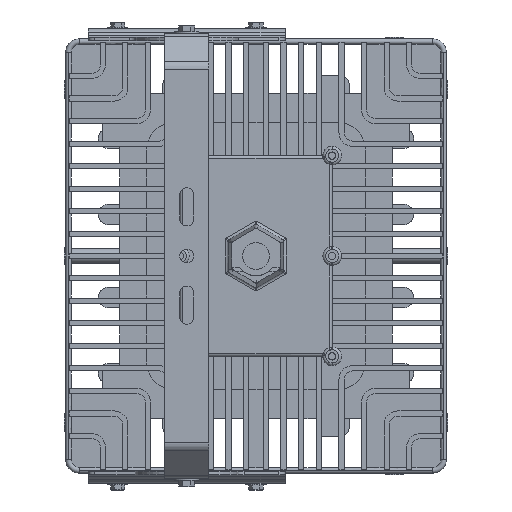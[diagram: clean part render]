
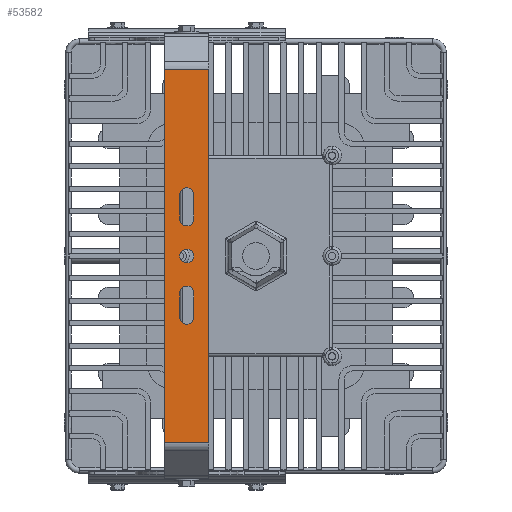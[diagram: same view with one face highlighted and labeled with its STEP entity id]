
A CAD part, left-side view. The second image highlights one B-rep face of the part: STEP entity #53582.
In plain terms, the highlighted planar face has unit normal (-1, 0, 0) as drawn and (0, 1, 0) by its records, which use the part's own axes.
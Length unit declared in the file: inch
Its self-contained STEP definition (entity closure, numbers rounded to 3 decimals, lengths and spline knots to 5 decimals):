
#192 = VERTEX_POINT ( 'NONE', #221 ) ;
#221 = CARTESIAN_POINT ( 'NONE',  ( -6.73579, 5.135, 0. ) ) ;
#849 = ORIENTED_EDGE ( 'NONE', *, *, #71276, .F. ) ;
#1023 = CARTESIAN_POINT ( 'NONE',  ( 1.335, 5.135, -0.55 ) ) ;
#1081 = EDGE_CURVE ( 'NONE', #78910, #71484, #62967, .T. ) ;
#1778 = AXIS2_PLACEMENT_3D ( 'NONE', #27148, #33582, #68188 ) ;
#2258 = VERTEX_POINT ( 'NONE', #70051 ) ;
#2411 = CIRCLE ( 'NONE', #62596, 0.25 ) ;
#3666 = VECTOR ( 'NONE', #30069, 39.37008 ) ;
#7105 = DIRECTION ( 'NONE',  ( 1., 0., 0. ) ) ;
#7224 = AXIS2_PLACEMENT_3D ( 'NONE', #14072, #66290, #59842 ) ;
#7437 = LINE ( 'NONE', #72512, #17782 ) ;
#7569 = VERTEX_POINT ( 'NONE', #13927 ) ;
#8459 = CARTESIAN_POINT ( 'NONE',  ( 0., 5.135, -0.8 ) ) ;
#8899 = DIRECTION ( 'NONE',  ( 0., 1., 0. ) ) ;
#9145 = DIRECTION ( 'NONE',  ( 0., 0., -1. ) ) ;
#11086 = EDGE_CURVE ( 'NONE', #71803, #67207, #25305, .T. ) ;
#11634 = VECTOR ( 'NONE', #50415, 39.37008 ) ;
#11940 = CARTESIAN_POINT ( 'NONE',  ( 2.21, 5.135, -0.55 ) ) ;
#13927 = CARTESIAN_POINT ( 'NONE',  ( 1.335, 5.135, -1.05 ) ) ;
#14072 = CARTESIAN_POINT ( 'NONE',  ( -2.21, 5.135, -0.8 ) ) ;
#14689 = CARTESIAN_POINT ( 'NONE',  ( -6.73579, 5.135, -1.6 ) ) ;
#15289 = VECTOR ( 'NONE', #82001, 39.37008 ) ;
#15564 = CARTESIAN_POINT ( 'NONE',  ( -6.83934, 5.135, -1.6 ) ) ;
#15681 = CARTESIAN_POINT ( 'NONE',  ( 1.335, 5.135, -0.55 ) ) ;
#16141 = EDGE_CURVE ( 'NONE', #37472, #52315, #31899, .T. ) ;
#16480 = CARTESIAN_POINT ( 'NONE',  ( 1.335, 5.135, -0.8 ) ) ;
#17782 = VECTOR ( 'NONE', #65250, 39.37008 ) ;
#17875 = ORIENTED_EDGE ( 'NONE', *, *, #50304, .T. ) ;
#18231 = VECTOR ( 'NONE', #64639, 39.37008 ) ;
#18355 = EDGE_CURVE ( 'NONE', #30677, #2258, #74550, .T. ) ;
#21235 = EDGE_CURVE ( 'NONE', #7569, #36129, #2411, .T. ) ;
#22187 = EDGE_LOOP ( 'NONE', ( #64486, #28079, #37899, #35006 ) ) ;
#22810 = CARTESIAN_POINT ( 'NONE',  ( -6.73579, 5.135, -1.6 ) ) ;
#24227 = LINE ( 'NONE', #36219, #15289 ) ;
#25305 = LINE ( 'NONE', #47392, #18231 ) ;
#26304 = CARTESIAN_POINT ( 'NONE',  ( -1.335, 5.135, -0.8 ) ) ;
#27148 = CARTESIAN_POINT ( 'NONE',  ( 0., 5.135, -0.8 ) ) ;
#27521 = AXIS2_PLACEMENT_3D ( 'NONE', #26304, #51922, #57118 ) ;
#27686 = LINE ( 'NONE', #15681, #54898 ) ;
#28005 = FACE_BOUND ( 'NONE', #47810, .T. ) ;
#28079 = ORIENTED_EDGE ( 'NONE', *, *, #55987, .F. ) ;
#28605 = ORIENTED_EDGE ( 'NONE', *, *, #1081, .F. ) ;
#28852 = PLANE ( 'NONE',  #57247 ) ;
#29226 = LINE ( 'NONE', #22810, #60973 ) ;
#30069 = DIRECTION ( 'NONE',  ( 1., 0., 0. ) ) ;
#30161 = CARTESIAN_POINT ( 'NONE',  ( -2.21, 5.135, -1.05 ) ) ;
#30677 = VERTEX_POINT ( 'NONE', #11940 ) ;
#30801 = LINE ( 'NONE', #69714, #11634 ) ;
#31899 = CIRCLE ( 'NONE', #7224, 0.25 ) ;
#32482 = CARTESIAN_POINT ( 'NONE',  ( -6.83934, 5.135, 0. ) ) ;
#33582 = DIRECTION ( 'NONE',  ( 0., 1., 0. ) ) ;
#34622 = ORIENTED_EDGE ( 'NONE', *, *, #50404, .T. ) ;
#34630 = EDGE_CURVE ( 'NONE', #36129, #30677, #27686, .T. ) ;
#34698 = EDGE_LOOP ( 'NONE', ( #34622, #69482, #67113, #17875 ) ) ;
#34758 = LINE ( 'NONE', #60837, #57431 ) ;
#34858 = FACE_BOUND ( 'NONE', #22187, .T. ) ;
#35006 = ORIENTED_EDGE ( 'NONE', *, *, #16141, .F. ) ;
#35046 = DIRECTION ( 'NONE',  ( 0., 0., 1. ) ) ;
#35080 = CARTESIAN_POINT ( 'NONE',  ( 6.73579, 5.135, -1.6 ) ) ;
#36129 = VERTEX_POINT ( 'NONE', #1023 ) ;
#36219 = CARTESIAN_POINT ( 'NONE',  ( 1.335, 5.135, -1.05 ) ) ;
#37472 = VERTEX_POINT ( 'NONE', #30161 ) ;
#37637 = AXIS2_PLACEMENT_3D ( 'NONE', #39082, #52711, #78438 ) ;
#37899 = ORIENTED_EDGE ( 'NONE', *, *, #55241, .F. ) ;
#38331 = CARTESIAN_POINT ( 'NONE',  ( -1.335, 5.135, -1.05 ) ) ;
#38630 = EDGE_CURVE ( 'NONE', #76094, #37472, #30801, .T. ) ;
#38885 = LINE ( 'NONE', #32482, #3666 ) ;
#39082 = CARTESIAN_POINT ( 'NONE',  ( 2.21, 5.135, -0.8 ) ) ;
#41712 = DIRECTION ( 'NONE',  ( 0., -1., 0. ) ) ;
#46615 = CIRCLE ( 'NONE', #27521, 0.25 ) ;
#47392 = CARTESIAN_POINT ( 'NONE',  ( 6.73579, 5.135, -1.6 ) ) ;
#47727 = DIRECTION ( 'NONE',  ( 0., 1., 0. ) ) ;
#47810 = EDGE_LOOP ( 'NONE', ( #72264, #63112, #849, #56036 ) ) ;
#47818 = VERTEX_POINT ( 'NONE', #14689 ) ;
#48290 = CIRCLE ( 'NONE', #1778, 0.25 ) ;
#48599 = EDGE_LOOP ( 'NONE', ( #28605, #81640 ) ) ;
#49329 = AXIS2_PLACEMENT_3D ( 'NONE', #8459, #8899, #35046 ) ;
#50304 = EDGE_CURVE ( 'NONE', #47818, #192, #29226, .T. ) ;
#50404 = EDGE_CURVE ( 'NONE', #192, #67207, #38885, .T. ) ;
#50415 = DIRECTION ( 'NONE',  ( -1., 0., 0. ) ) ;
#51922 = DIRECTION ( 'NONE',  ( 0., 1., 0. ) ) ;
#52315 = VERTEX_POINT ( 'NONE', #78824 ) ;
#52711 = DIRECTION ( 'NONE',  ( 0., 1., 0. ) ) ;
#53582 = ADVANCED_FACE ( 'NONE', ( #34858, #28005, #54072, #60932 ), #28852, .F. ) ;
#54072 = FACE_BOUND ( 'NONE', #48599, .T. ) ;
#54142 = DIRECTION ( 'NONE',  ( 0., 0., 1. ) ) ;
#54432 = DIRECTION ( 'NONE',  ( 0., 0., 1. ) ) ;
#54557 = EDGE_CURVE ( 'NONE', #47818, #71803, #7437, .T. ) ;
#54825 = DIRECTION ( 'NONE',  ( 1., 0., 0. ) ) ;
#54898 = VECTOR ( 'NONE', #7105, 39.37008 ) ;
#55241 = EDGE_CURVE ( 'NONE', #52315, #72573, #34758, .T. ) ;
#55987 = EDGE_CURVE ( 'NONE', #72573, #76094, #46615, .T. ) ;
#56036 = ORIENTED_EDGE ( 'NONE', *, *, #18355, .F. ) ;
#57118 = DIRECTION ( 'NONE',  ( 0., 0., -1. ) ) ;
#57247 = AXIS2_PLACEMENT_3D ( 'NONE', #15564, #41712, #9145 ) ;
#57431 = VECTOR ( 'NONE', #54825, 39.37008 ) ;
#59842 = DIRECTION ( 'NONE',  ( 0., 0., -1. ) ) ;
#60837 = CARTESIAN_POINT ( 'NONE',  ( -1.335, 5.135, -0.55 ) ) ;
#60932 = FACE_OUTER_BOUND ( 'NONE', #34698, .T. ) ;
#60973 = VECTOR ( 'NONE', #54432, 39.37008 ) ;
#62596 = AXIS2_PLACEMENT_3D ( 'NONE', #16480, #47727, #54142 ) ;
#62967 = CIRCLE ( 'NONE', #49329, 0.25 ) ;
#63112 = ORIENTED_EDGE ( 'NONE', *, *, #21235, .F. ) ;
#64486 = ORIENTED_EDGE ( 'NONE', *, *, #38630, .F. ) ;
#64639 = DIRECTION ( 'NONE',  ( 0., 0., 1. ) ) ;
#65250 = DIRECTION ( 'NONE',  ( 1., 0., 0. ) ) ;
#66290 = DIRECTION ( 'NONE',  ( 0., 1., 0. ) ) ;
#66928 = CARTESIAN_POINT ( 'NONE',  ( 0., 5.135, -1.05 ) ) ;
#67113 = ORIENTED_EDGE ( 'NONE', *, *, #54557, .F. ) ;
#67207 = VERTEX_POINT ( 'NONE', #78934 ) ;
#68188 = DIRECTION ( 'NONE',  ( 0., 0., 1. ) ) ;
#69482 = ORIENTED_EDGE ( 'NONE', *, *, #11086, .F. ) ;
#69714 = CARTESIAN_POINT ( 'NONE',  ( -1.335, 5.135, -1.05 ) ) ;
#70051 = CARTESIAN_POINT ( 'NONE',  ( 2.21, 5.135, -1.05 ) ) ;
#71276 = EDGE_CURVE ( 'NONE', #2258, #7569, #24227, .T. ) ;
#71484 = VERTEX_POINT ( 'NONE', #66928 ) ;
#71803 = VERTEX_POINT ( 'NONE', #35080 ) ;
#72264 = ORIENTED_EDGE ( 'NONE', *, *, #34630, .F. ) ;
#72512 = CARTESIAN_POINT ( 'NONE',  ( -6.83934, 5.135, -1.6 ) ) ;
#72573 = VERTEX_POINT ( 'NONE', #74311 ) ;
#74311 = CARTESIAN_POINT ( 'NONE',  ( -1.335, 5.135, -0.55 ) ) ;
#74550 = CIRCLE ( 'NONE', #37637, 0.25 ) ;
#76094 = VERTEX_POINT ( 'NONE', #38331 ) ;
#78438 = DIRECTION ( 'NONE',  ( 0., 0., 1. ) ) ;
#78824 = CARTESIAN_POINT ( 'NONE',  ( -2.21, 5.135, -0.55 ) ) ;
#78910 = VERTEX_POINT ( 'NONE', #79751 ) ;
#78934 = CARTESIAN_POINT ( 'NONE',  ( 6.73579, 5.135, 0. ) ) ;
#79751 = CARTESIAN_POINT ( 'NONE',  ( 0., 5.135, -0.55 ) ) ;
#81640 = ORIENTED_EDGE ( 'NONE', *, *, #81771, .F. ) ;
#81771 = EDGE_CURVE ( 'NONE', #71484, #78910, #48290, .T. ) ;
#82001 = DIRECTION ( 'NONE',  ( -1., 0., 0. ) ) ;
